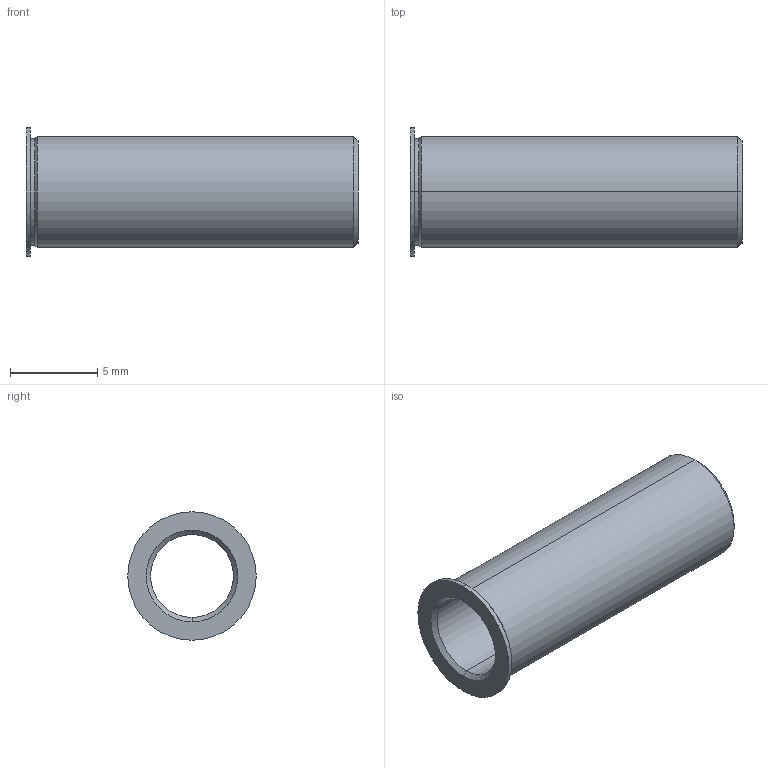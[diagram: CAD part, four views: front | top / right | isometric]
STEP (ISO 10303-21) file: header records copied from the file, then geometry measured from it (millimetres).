
FILE_DESCRIPTION (( 'STEP AP214' ), '1' );
FILE_NAME ('TB187-100-750-S.STEP', '2013-08-12T19:25:09', ( 'workpc' ), ( 'Microsoft' ), 'SwSTEP 2.0', 'SolidWorks 2013', '' );
FILE_SCHEMA (( 'AUTOMOTIVE_DESIGN' ));
Length unit declared in the file: inch
Products named in the file (1): TB187-100-750-S
Bounding box: 19.05 x 7.37 x 7.37 mm (x, y, z)
Volume: 268.5 mm3; surface area: 711.6 mm2
Topology: 1 solids, 1 shells, 19 faces, 38 edges, 22 vertices
Faces by surface type: cone 8, cylinder 8, plane 3
Entity records: 564 total; most frequent: DIRECTION 100, CARTESIAN_POINT 80, ORIENTED_EDGE 76, AXIS2_PLACEMENT_3D 42, EDGE_CURVE 38, CIRCLE 22, EDGE_LOOP 22, VERTEX_POINT 22
